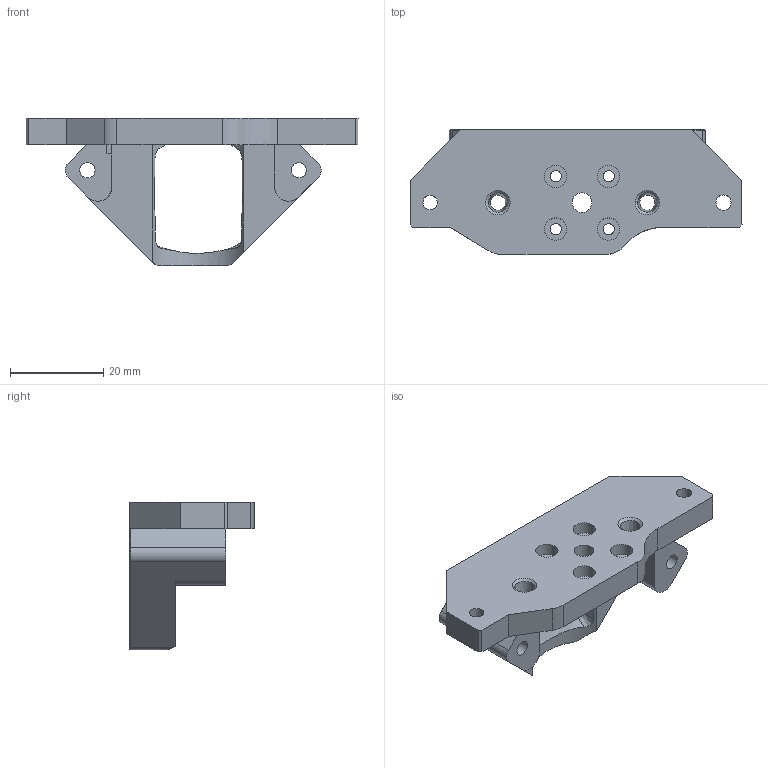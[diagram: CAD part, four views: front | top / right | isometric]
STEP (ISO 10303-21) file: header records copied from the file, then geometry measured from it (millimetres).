
FILE_DESCRIPTION(/* description */ (''),/* implementation_level */ '2;1');
FILE_NAME(/* name */ 'C:/Users/Martin/Documents/icarus-2.1/icarus-2-current-step-files/2-mounts/mount-sherpa-micro-r1-dragon-2.1.step',/* time_stamp */ '2022-08-22T21:36:32+02:00',/* author */ (''),/* organization */ (''),/* preprocessor_version */ 'ST-DEVELOPER v19',/* originating_system */ 'Autodesk Translation Framework v11.7.0.108',/* authorisation */ '');
FILE_SCHEMA (('AUTOMOTIVE_DESIGN { 1 0 10303 214 3 1 1 }'));
Length unit declared in the file: millimetre
Products named in the file (1): icarus-2-hotend-extruder-mounts
Bounding box: 71.07 x 26.66 x 31.68 mm (x, y, z)
Volume: 13588.6 mm3; surface area: 7547.9 mm2
Topology: 1 solids, 1 shells, 89 faces, 254 edges, 167 vertices
Faces by surface type: plane 39, cylinder 24, bspline 18, cone 8
Full cylindrical faces by diameter (mm): 2.4 x4, 3.1 x1, 3.25 x4, 4.2 x1, 4.8 x4
Entity records: 3752 total; most frequent: CARTESIAN_POINT 1445, ORIENTED_EDGE 508, DIRECTION 404, EDGE_CURVE 254, VERTEX_POINT 167, AXIS2_PLACEMENT_3D 135, LINE 134, VECTOR 134
